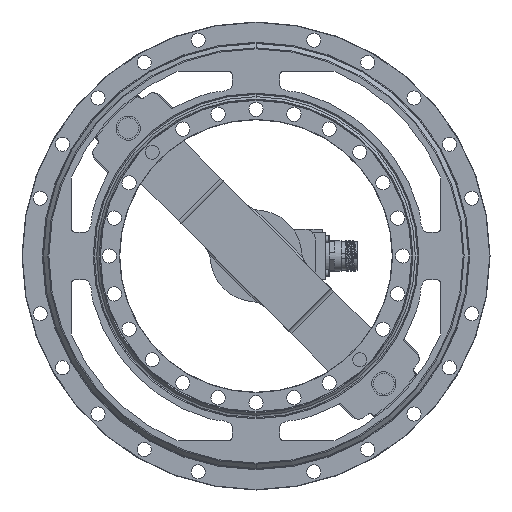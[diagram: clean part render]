
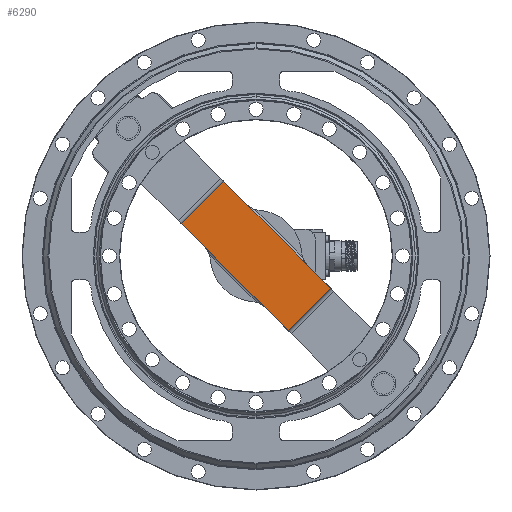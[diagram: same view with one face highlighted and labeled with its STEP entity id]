
A CAD part, front view. The second image highlights one B-rep face of the part: STEP entity #6290.
In plain terms, the highlighted planar face has unit normal (0, -1, 0).
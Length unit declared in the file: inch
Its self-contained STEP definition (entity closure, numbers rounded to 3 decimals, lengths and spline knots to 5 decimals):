
#172 = PLANE ( 'NONE',  #40885 ) ;
#195 = CARTESIAN_POINT ( 'NONE',  ( 1.46912, 0.385, -0.25997 ) ) ;
#2842 = VERTEX_POINT ( 'NONE', #49709 ) ;
#2886 = CARTESIAN_POINT ( 'NONE',  ( 1.42034, 0.385, -0.20411 ) ) ;
#3083 = ORIENTED_EDGE ( 'NONE', *, *, #43233, .T. ) ;
#4514 = ORIENTED_EDGE ( 'NONE', *, *, #21967, .T. ) ;
#6049 = VERTEX_POINT ( 'NONE', #30509 ) ;
#6157 = DIRECTION ( 'NONE',  ( 0., 1., 0. ) ) ;
#6290 = ADVANCED_FACE ( 'NONE', ( #8989 ), #172, .T. ) ;
#6771 = LINE ( 'NONE', #56474, #36579 ) ;
#6836 = AXIS2_PLACEMENT_3D ( 'NONE', #28248, #54920, #55526 ) ;
#6887 = DIRECTION ( 'NONE',  ( -0.707, 0., -0.707 ) ) ;
#8989 = FACE_OUTER_BOUND ( 'NONE', #52341, .T. ) ;
#10058 = VERTEX_POINT ( 'NONE', #22464 ) ;
#10134 = CARTESIAN_POINT ( 'NONE',  ( 1.85803, 0.385, 0.12894 ) ) ;
#10140 = DIRECTION ( 'NONE',  ( 0.707, 0., 0.707 ) ) ;
#10168 = DIRECTION ( 'NONE',  ( -0.707, 0., 0.707 ) ) ;
#12338 = CARTESIAN_POINT ( 'NONE',  ( 1.47266, 0.385, -0.25643 ) ) ;
#12564 = EDGE_CURVE ( 'NONE', #2842, #59487, #6771, .T. ) ;
#12756 = CARTESIAN_POINT ( 'NONE',  ( 0.25643, 0.385, -1.47266 ) ) ;
#13129 = CARTESIAN_POINT ( 'NONE',  ( 2.14253, 0.385, -0.93338 ) ) ;
#13533 = DIRECTION ( 'NONE',  ( -0.707, 0., -0.707 ) ) ;
#13969 = VECTOR ( 'NONE', #6887, 39.37008 ) ;
#14342 = CARTESIAN_POINT ( 'NONE',  ( -0.12894, 0.385, -1.85803 ) ) ;
#15521 = VECTOR ( 'NONE', #16386, 39.37008 ) ;
#15544 = LINE ( 'NONE', #15845, #57459 ) ;
#15845 = CARTESIAN_POINT ( 'NONE',  ( -2.14253, 0.385, 0.93338 ) ) ;
#16103 = EDGE_CURVE ( 'NONE', #46986, #2842, #25133, .T. ) ;
#16386 = DIRECTION ( 'NONE',  ( -0.707, 0., 0.707 ) ) ;
#16433 = VERTEX_POINT ( 'NONE', #29319 ) ;
#16513 = ORIENTED_EDGE ( 'NONE', *, *, #36077, .T. ) ;
#16876 = CIRCLE ( 'NONE', #50739, 0.55 ) ;
#17215 = VERTEX_POINT ( 'NONE', #22906 ) ;
#17290 = VECTOR ( 'NONE', #10168, 39.37008 ) ;
#18981 = VERTEX_POINT ( 'NONE', #21882 ) ;
#19191 = EDGE_CURVE ( 'NONE', #17215, #16433, #38786, .T. ) ;
#19760 = DIRECTION ( 'NONE',  ( -0.707, 0., -0.707 ) ) ;
#20173 = CARTESIAN_POINT ( 'NONE',  ( -1.42034, 0.385, 0.20411 ) ) ;
#20974 = CARTESIAN_POINT ( 'NONE',  ( -2.14253, 0.385, 0.93338 ) ) ;
#21882 = CARTESIAN_POINT ( 'NONE',  ( -0.20411, 0.385, 1.42034 ) ) ;
#21967 = EDGE_CURVE ( 'NONE', #18981, #17215, #36858, .T. ) ;
#22464 = CARTESIAN_POINT ( 'NONE',  ( 0.20411, 0.385, -1.42034 ) ) ;
#22589 = DIRECTION ( 'NONE',  ( 0.707, 0., -0.707 ) ) ;
#22906 = CARTESIAN_POINT ( 'NONE',  ( -0.25997, 0.385, 1.46912 ) ) ;
#23725 = CIRCLE ( 'NONE', #59435, 0.55 ) ;
#23859 = CARTESIAN_POINT ( 'NONE',  ( -1.85803, 0.385, -0.12894 ) ) ;
#25133 = LINE ( 'NONE', #30282, #43818 ) ;
#25771 = ORIENTED_EDGE ( 'NONE', *, *, #35263, .T. ) ;
#26195 = VERTEX_POINT ( 'NONE', #20974 ) ;
#26830 = ORIENTED_EDGE ( 'NONE', *, *, #19191, .T. ) ;
#27186 = EDGE_CURVE ( 'NONE', #26195, #6049, #15544, .T. ) ;
#28248 = CARTESIAN_POINT ( 'NONE',  ( 0.12894, 0.385, 1.85803 ) ) ;
#28415 = DIRECTION ( 'NONE',  ( 0., 1., 0. ) ) ;
#29319 = CARTESIAN_POINT ( 'NONE',  ( -0.93338, 0.385, 2.14253 ) ) ;
#30122 = ORIENTED_EDGE ( 'NONE', *, *, #40514, .T. ) ;
#30282 = CARTESIAN_POINT ( 'NONE',  ( 0.25997, 0.385, -1.46912 ) ) ;
#30509 = CARTESIAN_POINT ( 'NONE',  ( -1.46912, 0.385, 0.25997 ) ) ;
#30860 = VECTOR ( 'NONE', #41219, 39.37008 ) ;
#31405 = DIRECTION ( 'NONE',  ( 0., -1., 0. ) ) ;
#31641 = VERTEX_POINT ( 'NONE', #20173 ) ;
#32295 = LINE ( 'NONE', #41984, #17290 ) ;
#33261 = DIRECTION ( 'NONE',  ( -0.707, 0., -0.707 ) ) ;
#35263 = EDGE_CURVE ( 'NONE', #10058, #46986, #23725, .T. ) ;
#36077 = EDGE_CURVE ( 'NONE', #6049, #31641, #16876, .T. ) ;
#36095 = EDGE_CURVE ( 'NONE', #16433, #26195, #58082, .T. ) ;
#36579 = VECTOR ( 'NONE', #10140, 39.37008 ) ;
#36858 = CIRCLE ( 'NONE', #6836, 0.55 ) ;
#38466 = ORIENTED_EDGE ( 'NONE', *, *, #16103, .T. ) ;
#38587 = ORIENTED_EDGE ( 'NONE', *, *, #12564, .T. ) ;
#38786 = LINE ( 'NONE', #40001, #15521 ) ;
#39975 = DIRECTION ( 'NONE',  ( 0.707, 0., -0.707 ) ) ;
#40001 = CARTESIAN_POINT ( 'NONE',  ( -0.25997, 0.385, 1.46912 ) ) ;
#40343 = CARTESIAN_POINT ( 'NONE',  ( 0.25997, 0.385, -1.46912 ) ) ;
#40377 = EDGE_CURVE ( 'NONE', #18981, #42950, #48976, .T. ) ;
#40514 = EDGE_CURVE ( 'NONE', #59487, #42662, #32295, .T. ) ;
#40827 = ORIENTED_EDGE ( 'NONE', *, *, #50466, .F. ) ;
#40885 = AXIS2_PLACEMENT_3D ( 'NONE', #54717, #31405, #13533 ) ;
#41111 = AXIS2_PLACEMENT_3D ( 'NONE', #10134, #6157, #42830 ) ;
#41219 = DIRECTION ( 'NONE',  ( -0.707, 0., 0.707 ) ) ;
#41960 = ORIENTED_EDGE ( 'NONE', *, *, #40377, .F. ) ;
#41984 = CARTESIAN_POINT ( 'NONE',  ( 2.14253, 0.385, -0.93338 ) ) ;
#42662 = VERTEX_POINT ( 'NONE', #195 ) ;
#42830 = DIRECTION ( 'NONE',  ( -0.707, 0., -0.707 ) ) ;
#42950 = VERTEX_POINT ( 'NONE', #2886 ) ;
#43113 = DIRECTION ( 'NONE',  ( 0.707, 0., -0.707 ) ) ;
#43233 = EDGE_CURVE ( 'NONE', #42662, #42950, #46909, .T. ) ;
#43818 = VECTOR ( 'NONE', #39975, 39.37008 ) ;
#45145 = LINE ( 'NONE', #12756, #30860 ) ;
#45257 = ORIENTED_EDGE ( 'NONE', *, *, #27186, .T. ) ;
#46909 = CIRCLE ( 'NONE', #41111, 0.55 ) ;
#46986 = VERTEX_POINT ( 'NONE', #40343 ) ;
#47209 = VECTOR ( 'NONE', #22589, 39.37008 ) ;
#47799 = CARTESIAN_POINT ( 'NONE',  ( -0.93338, 0.385, 2.14253 ) ) ;
#48976 = LINE ( 'NONE', #12338, #47209 ) ;
#49709 = CARTESIAN_POINT ( 'NONE',  ( 0.93338, 0.385, -2.14253 ) ) ;
#50466 = EDGE_CURVE ( 'NONE', #10058, #31641, #45145, .T. ) ;
#50739 = AXIS2_PLACEMENT_3D ( 'NONE', #23859, #28415, #33261 ) ;
#52194 = ORIENTED_EDGE ( 'NONE', *, *, #36095, .T. ) ;
#52341 = EDGE_LOOP ( 'NONE', ( #40827, #25771, #38466, #38587, #30122, #3083, #41960, #4514, #26830, #52194, #45257, #16513 ) ) ;
#52485 = DIRECTION ( 'NONE',  ( 0., 1., 0. ) ) ;
#54717 = CARTESIAN_POINT ( 'NONE',  ( 1.85803, 0.385, 0.12894 ) ) ;
#54920 = DIRECTION ( 'NONE',  ( 0., 1., 0. ) ) ;
#55526 = DIRECTION ( 'NONE',  ( -0.707, 0., -0.707 ) ) ;
#56474 = CARTESIAN_POINT ( 'NONE',  ( 2.14253, 0.385, -0.93338 ) ) ;
#57459 = VECTOR ( 'NONE', #43113, 39.37008 ) ;
#58082 = LINE ( 'NONE', #47799, #13969 ) ;
#59435 = AXIS2_PLACEMENT_3D ( 'NONE', #14342, #52485, #19760 ) ;
#59487 = VERTEX_POINT ( 'NONE', #13129 ) ;
